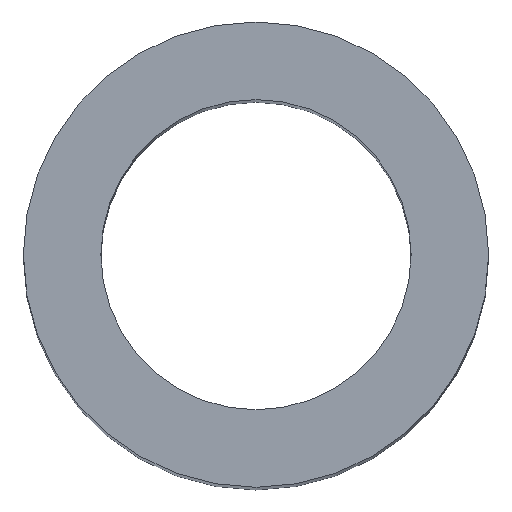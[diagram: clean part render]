
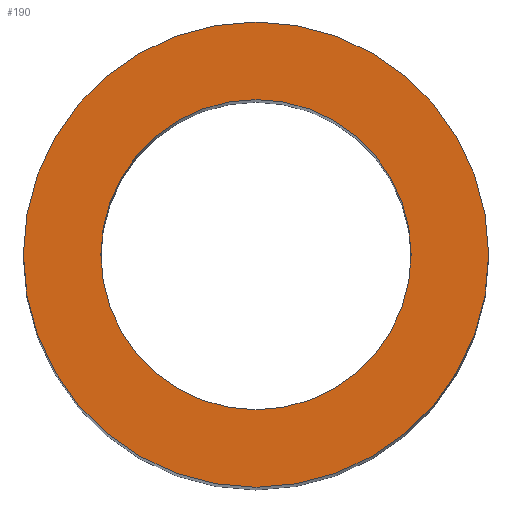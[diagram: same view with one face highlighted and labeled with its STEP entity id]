
A CAD part, top view. The second image highlights one B-rep face of the part: STEP entity #190.
In plain terms, the highlighted planar face has unit normal (0, 0, 1).
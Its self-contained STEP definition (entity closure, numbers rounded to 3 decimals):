
#24 = VERTEX_POINT('',#25);
#25 = CARTESIAN_POINT('',(3.,0.,20.));
#32 = CYLINDRICAL_SURFACE('',#33,3.);
#33 = AXIS2_PLACEMENT_3D('',#34,#35,#36);
#34 = CARTESIAN_POINT('',(0.,0.,0.));
#35 = DIRECTION('',(-0.,-0.,-1.));
#36 = DIRECTION('',(1.,0.,0.));
#51 = EDGE_CURVE('',#24,#24,#52,.T.);
#52 = SURFACE_CURVE('',#53,(#58,#65),.PCURVE_S1.);
#53 = CIRCLE('',#54,3.);
#54 = AXIS2_PLACEMENT_3D('',#55,#56,#57);
#55 = CARTESIAN_POINT('',(0.,0.,20.));
#56 = DIRECTION('',(0.,0.,1.));
#57 = DIRECTION('',(1.,0.,0.));
#58 = PCURVE('',#32,#59);
#59 = DEFINITIONAL_REPRESENTATION('',(#60),#64);
#60 = LINE('',#61,#62);
#61 = CARTESIAN_POINT('',(-0.,-20.));
#62 = VECTOR('',#63,1.);
#63 = DIRECTION('',(-1.,0.));
#64 = ( GEOMETRIC_REPRESENTATION_CONTEXT(2) 
PARAMETRIC_REPRESENTATION_CONTEXT() REPRESENTATION_CONTEXT('2D SPACE',''
  ) );
#65 = PCURVE('',#66,#71);
#66 = PLANE('',#67);
#67 = AXIS2_PLACEMENT_3D('',#68,#69,#70);
#68 = CARTESIAN_POINT('',(0.,0.,20.));
#69 = DIRECTION('',(0.,0.,1.));
#70 = DIRECTION('',(1.,0.,-0.));
#71 = DEFINITIONAL_REPRESENTATION('',(#72),#76);
#72 = CIRCLE('',#73,3.);
#73 = AXIS2_PLACEMENT_2D('',#74,#75);
#74 = CARTESIAN_POINT('',(0.,0.));
#75 = DIRECTION('',(1.,0.));
#76 = ( GEOMETRIC_REPRESENTATION_CONTEXT(2) 
PARAMETRIC_REPRESENTATION_CONTEXT() REPRESENTATION_CONTEXT('2D SPACE',''
  ) );
#112 = VERTEX_POINT('',#113);
#113 = CARTESIAN_POINT('',(2.,0.,20.));
#120 = CYLINDRICAL_SURFACE('',#121,2.);
#121 = AXIS2_PLACEMENT_3D('',#122,#123,#124);
#122 = CARTESIAN_POINT('',(0.,0.,0.));
#123 = DIRECTION('',(-0.,-0.,-1.));
#124 = DIRECTION('',(1.,0.,0.));
#139 = EDGE_CURVE('',#112,#112,#140,.T.);
#140 = SURFACE_CURVE('',#141,(#146,#153),.PCURVE_S1.);
#141 = CIRCLE('',#142,2.);
#142 = AXIS2_PLACEMENT_3D('',#143,#144,#145);
#143 = CARTESIAN_POINT('',(0.,0.,20.));
#144 = DIRECTION('',(0.,0.,1.));
#145 = DIRECTION('',(1.,0.,0.));
#146 = PCURVE('',#120,#147);
#147 = DEFINITIONAL_REPRESENTATION('',(#148),#152);
#148 = LINE('',#149,#150);
#149 = CARTESIAN_POINT('',(-0.,-20.));
#150 = VECTOR('',#151,1.);
#151 = DIRECTION('',(-1.,0.));
#152 = ( GEOMETRIC_REPRESENTATION_CONTEXT(2) 
PARAMETRIC_REPRESENTATION_CONTEXT() REPRESENTATION_CONTEXT('2D SPACE',''
  ) );
#153 = PCURVE('',#66,#154);
#154 = DEFINITIONAL_REPRESENTATION('',(#155),#159);
#155 = CIRCLE('',#156,2.);
#156 = AXIS2_PLACEMENT_2D('',#157,#158);
#157 = CARTESIAN_POINT('',(0.,0.));
#158 = DIRECTION('',(1.,0.));
#159 = ( GEOMETRIC_REPRESENTATION_CONTEXT(2) 
PARAMETRIC_REPRESENTATION_CONTEXT() REPRESENTATION_CONTEXT('2D SPACE',''
  ) );
#190 = ADVANCED_FACE('',(#191,#194),#66,.T.);
#191 = FACE_BOUND('',#192,.T.);
#192 = EDGE_LOOP('',(#193));
#193 = ORIENTED_EDGE('',*,*,#51,.T.);
#194 = FACE_BOUND('',#195,.T.);
#195 = EDGE_LOOP('',(#196));
#196 = ORIENTED_EDGE('',*,*,#139,.F.);
